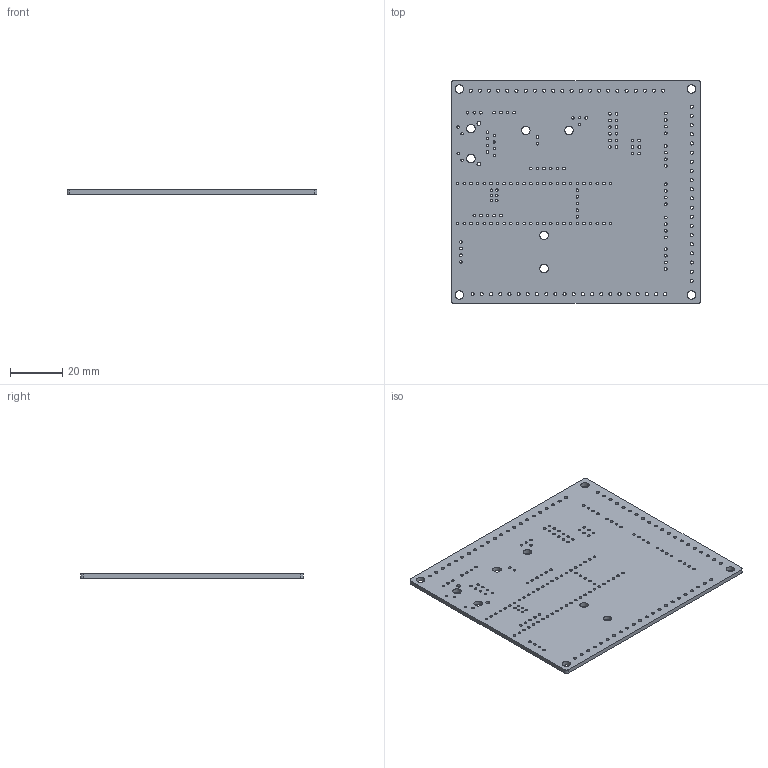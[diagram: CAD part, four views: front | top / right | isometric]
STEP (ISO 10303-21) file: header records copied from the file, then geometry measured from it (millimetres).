
FILE_DESCRIPTION(('KiCad electronic assembly'),'2;1');
FILE_NAME('teensy 4.1x209.step','2021-12-17T11:13:42',('An Author'),( 'A Company'),'Open CASCADE STEP processor 6.9', 'KiCad to STEP converter','Unknown');
FILE_SCHEMA(('AUTOMOTIVE_DESIGN { 1 0 10303 214 1 1 1 1 }'));
Length unit declared in the file: millimetre
Products named in the file (2): Open CASCADE STEP translator 6.9 1; COMPOUND
Assembly tree (1 placements, depth 2):
  Open CASCADE STEP translator 6.9 1
    COMPOUND
Bounding box: 95.5 x 85 x 1.6 mm (x, y, z)
Volume: 12566 mm3; surface area: 17528.1 mm2
Topology: 1 solids, 1 shells, 223 faces, 663 edges, 442 vertices
Faces by surface type: cylinder 217, plane 6
Full cylindrical faces by diameter (mm): 0.813 x1, 0.9 x18, 1 x61, 1.016 x57, 1.2 x64, 1.5 x2, 3.2 x8, 3.25 x2
Entity records: 17269 total; most frequent: DIRECTION 2873, CARTESIAN_POINT 2656, ORIENTED_EDGE 1326, PCURVE 1326, DEFINITIONAL_REPRESENTATION 1326, LINE 1121, VECTOR 1121, CIRCLE 868
